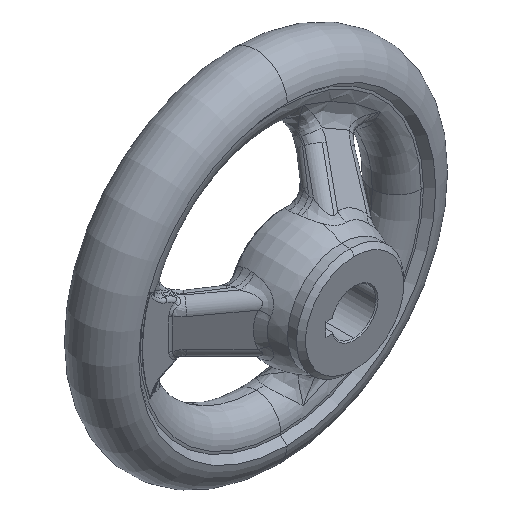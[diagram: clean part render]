
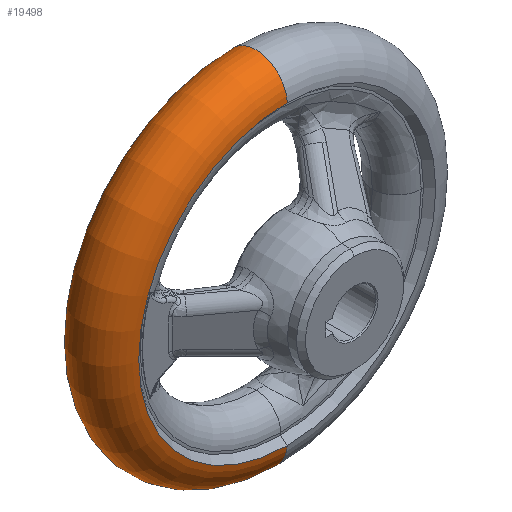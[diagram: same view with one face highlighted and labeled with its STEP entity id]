
A CAD part, isometric view. The second image highlights one B-rep face of the part: STEP entity #19498.
In plain terms, the highlighted toroidal (fillet/blend) face has major radius 33 mm and minor radius 7 mm.
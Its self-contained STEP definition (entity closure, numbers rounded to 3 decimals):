
#13950 = CIRCLE ( 'NONE', #14144, 7. ) ;
#14141 = DIRECTION ( 'NONE',  ( 0., 0., -1. ) ) ;
#14142 = DIRECTION ( 'NONE',  ( 1., 0., 0. ) ) ;
#14143 = CARTESIAN_POINT ( 'NONE',  ( 0., 22.072, 33. ) ) ;
#14144 = AXIS2_PLACEMENT_3D ( 'NONE', #14143, #14142, #14141 ) ;
#14377 = CARTESIAN_POINT ( 'NONE',  ( 0., 15.076, -33.25 ) ) ;
#14386 = CARTESIAN_POINT ( 'NONE',  ( 0., 15.076, 33.25 ) ) ;
#14423 = DIRECTION ( 'NONE',  ( 0., 0., -1. ) ) ;
#14424 = DIRECTION ( 'NONE',  ( 0., -1., 0. ) ) ;
#14425 = CARTESIAN_POINT ( 'NONE',  ( 0., 15.076, 0. ) ) ;
#14426 = AXIS2_PLACEMENT_3D ( 'NONE', #14425, #14424, #14423 ) ;
#14427 = CIRCLE ( 'NONE', #14426, 33.25 ) ;
#16171 = AXIS2_PLACEMENT_3D ( 'NONE', #16223, #16226, #16213 ) ;
#16199 = TOROIDAL_SURFACE ( 'NONE', #16171, 33., 7. ) ;
#16213 = DIRECTION ( 'NONE',  ( 0., 0., -1. ) ) ;
#16223 = CARTESIAN_POINT ( 'NONE',  ( 0., 22.072, 0. ) ) ;
#16224 = FACE_OUTER_BOUND ( 'NONE', #21050, .T. ) ;
#16226 = DIRECTION ( 'NONE',  ( 0., -1., 0. ) ) ;
#18654 = EDGE_CURVE ( 'NONE', #22497, #18771, #13950, .T. ) ;
#18771 = VERTEX_POINT ( 'NONE', #14386 ) ;
#18772 = VERTEX_POINT ( 'NONE', #14377 ) ;
#18774 = EDGE_CURVE ( 'NONE', #18771, #18772, #14427, .T. ) ;
#19371 = ORIENTED_EDGE ( 'NONE', *, *, #18654, .F. ) ;
#19413 = ORIENTED_EDGE ( 'NONE', *, *, #18774, .F. ) ;
#19432 = ORIENTED_EDGE ( 'NONE', *, *, #22625, .T. ) ;
#19463 = ORIENTED_EDGE ( 'NONE', *, *, #22196, .T. ) ;
#19498 = ADVANCED_FACE ( 'NONE', ( #16224 ), #16199, .T. ) ;
#19588 = DIRECTION ( 'NONE',  ( 0., 0., 1. ) ) ;
#19589 = DIRECTION ( 'NONE',  ( -1., 0., 0. ) ) ;
#19590 = CARTESIAN_POINT ( 'NONE',  ( 0., 22.072, -33. ) ) ;
#19592 = AXIS2_PLACEMENT_3D ( 'NONE', #19590, #19589, #19588 ) ;
#19593 = CIRCLE ( 'NONE', #19592, 7. ) ;
#19988 = CARTESIAN_POINT ( 'NONE',  ( 0., 29., 34. ) ) ;
#20027 = CARTESIAN_POINT ( 'NONE',  ( 0., 29., 0. ) ) ;
#20037 = AXIS2_PLACEMENT_3D ( 'NONE', #20027, #20044, #20043 ) ;
#20038 = CARTESIAN_POINT ( 'NONE',  ( 0., 29., -34. ) ) ;
#20039 = CIRCLE ( 'NONE', #20037, 34. ) ;
#20043 = DIRECTION ( 'NONE',  ( 0., 0., -1. ) ) ;
#20044 = DIRECTION ( 'NONE',  ( 0., -1., 0. ) ) ;
#21050 = EDGE_LOOP ( 'NONE', ( #19371, #19432, #19463, #19413 ) ) ;
#22196 = EDGE_CURVE ( 'NONE', #22620, #18772, #19593, .T. ) ;
#22497 = VERTEX_POINT ( 'NONE', #19988 ) ;
#22620 = VERTEX_POINT ( 'NONE', #20038 ) ;
#22625 = EDGE_CURVE ( 'NONE', #22497, #22620, #20039, .T. ) ;
